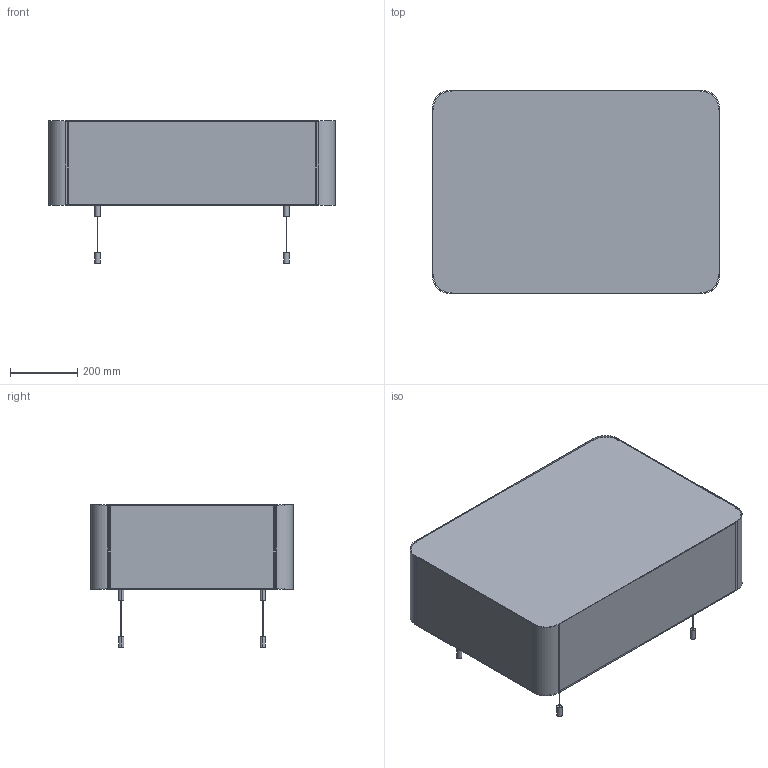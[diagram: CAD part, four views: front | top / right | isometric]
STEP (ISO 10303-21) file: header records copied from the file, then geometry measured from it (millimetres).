
FILE_DESCRIPTION(('Creo Elements/Direct Modeling STEP Export'),'2;1');
FILE_NAME('EMIL LED PENDELSET 850.stp','2016-04-05T13:02:16',(''),(''),'Creo Elements/Direct Modeling STEP processor for AP214 (Solid Model)','Creo Elements/Direct Modeling 18.1A 09-Jun-2012 (C) Parametric Technology GmbH','');
FILE_SCHEMA(('AUTOMOTIVE_DESIGN { 1 0 10303 214 1 1 1 1 }'));
Length unit declared in the file: millimetre
Products named in the file (2): EMIL_LED_PENDEL; EMIL_LED_PENDEL_600_850_4000_UM_OM_H_DA.1
Assembly tree (1 placements, depth 2):
  EMIL_LED_PENDEL_600_850_4000_UM_OM_H_DA.1
    EMIL_LED_PENDEL
Bounding box: 851 x 601 x 422.1 mm (x, y, z)
Volume: 123909603.8 mm3; surface area: 1936746.2 mm2
Topology: 1 solids, 1 shells, 76 faces, 192 edges, 128 vertices
Faces by surface type: cylinder 52, plane 24
Entity records: 2266 total; most frequent: DIRECTION 398, ORIENTED_EDGE 384, CARTESIAN_POINT 371, EDGE_CURVE 192, AXIS2_PLACEMENT_3D 155, VERTEX_POINT 128, EDGE_LOOP 94, VECTOR 88
